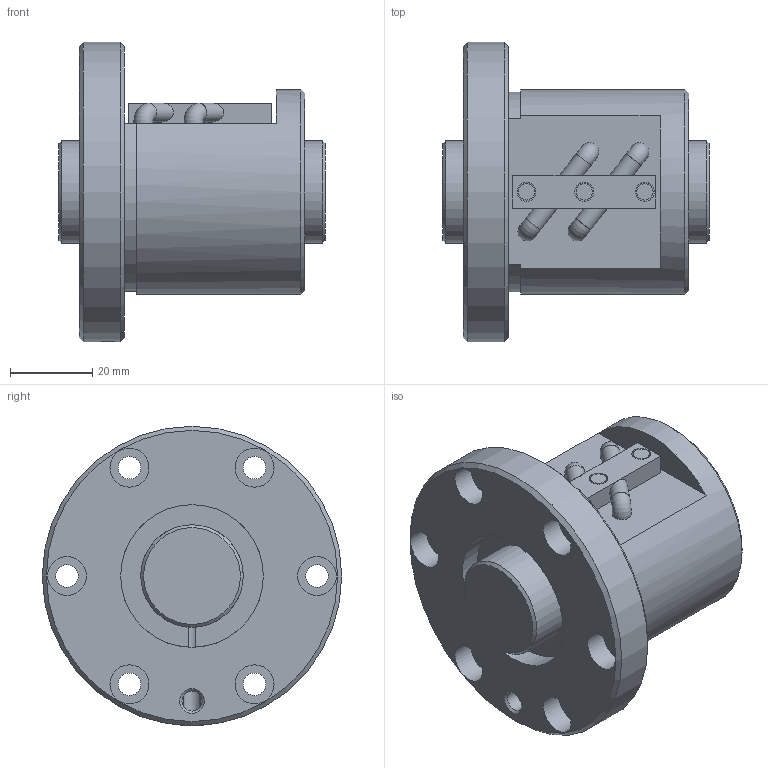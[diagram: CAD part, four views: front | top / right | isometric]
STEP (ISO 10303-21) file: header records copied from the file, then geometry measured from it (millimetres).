
FILE_DESCRIPTION(/* description */ ('STEP AP203'),/* implementation_level */ '2;1');
FILE_NAME(/* name */ 'BIF2505V-5RRG0+65LC0_000',/* time_stamp */ '2024-07-15T08:17:31+02:00',/* author */ ('License CC BY-ND 4.0'),/* organization */ ('CADENAS'),/* preprocessor_version */ 'ST-DEVELOPER v19.3',/* originating_system */ 'PARTsolutions',/* authorisation */ ' ');
FILE_SCHEMA (('CONFIG_CONTROL_DESIGN'));
Length unit declared in the file: millimetre
Products named in the file (3): BIF2505V-5RRG0+65LC0_000; BIF2505V-5RR000 Shaft; BIF2505V-5RR Nut
Assembly tree (2 placements, depth 2):
  BIF2505V-5RRG0+65LC0_000
    BIF2505V-5RR000 Shaft
    BIF2505V-5RR Nut
Bounding box: 65 x 73 x 73 mm (x, y, z)
Volume: 122575.2 mm3; surface area: 30083.9 mm2
Topology: 2 solids, 2 shells, 89 faces, 200 edges, 127 vertices
Faces by surface type: plane 41, cylinder 36, cone 8, torus 4
Full cylindrical faces by diameter (mm): 4 x3, 4.25 x2, 4.6 x7, 4.917 x1, 5.5 x6, 9.5 x6, 25 x2, 34.8 x2, 50 x1, 73 x1
Entity records: 2401 total; most frequent: CARTESIAN_POINT 455, DIRECTION 424, ORIENTED_EDGE 298, AXIS2_PLACEMENT_3D 194, EDGE_LOOP 164, FACE_BOUND 164, EDGE_CURVE 149, VERTEX_POINT 115
